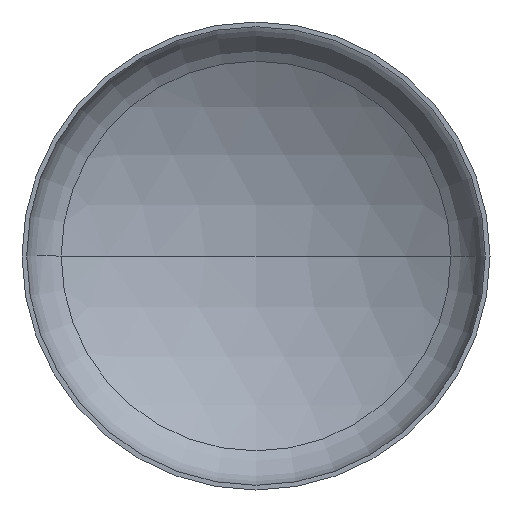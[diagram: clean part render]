
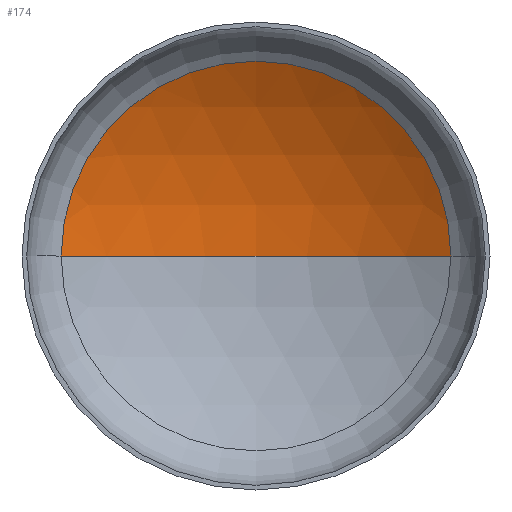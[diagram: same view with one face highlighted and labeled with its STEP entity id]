
A CAD part, front view. The second image highlights one B-rep face of the part: STEP entity #174.
In plain terms, the highlighted spherical face has radius 2240 mm.
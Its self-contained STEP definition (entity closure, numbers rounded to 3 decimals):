
#10 = AXIS2_PLACEMENT_3D ( 'NONE', #194, #286, #331 ) ;
#31 = AXIS2_PLACEMENT_3D ( 'NONE', #310, #169, #336 ) ;
#44 = ORIENTED_EDGE ( 'NONE', *, *, #144, .T. ) ;
#46 = VERTEX_POINT ( 'NONE', #302 ) ;
#52 = DIRECTION ( 'NONE',  ( 1., 0., 0. ) ) ;
#54 = ORIENTED_EDGE ( 'NONE', *, *, #358, .T. ) ;
#65 = AXIS2_PLACEMENT_3D ( 'NONE', #327, #333, #196 ) ;
#67 = AXIS2_PLACEMENT_3D ( 'NONE', #408, #266, #52 ) ;
#78 = CIRCLE ( 'NONE', #67, 1165.79 ) ;
#81 = VERTEX_POINT ( 'NONE', #238 ) ;
#92 = EDGE_LOOP ( 'NONE', ( #106, #54, #44 ) ) ;
#106 = ORIENTED_EDGE ( 'NONE', *, *, #337, .F. ) ;
#131 = VERTEX_POINT ( 'NONE', #262 ) ;
#144 = EDGE_CURVE ( 'NONE', #81, #131, #78, .T. ) ;
#169 = DIRECTION ( 'NONE',  ( 0., 0., 1. ) ) ;
#174 = ADVANCED_FACE ( 'NONE', ( #255 ), #193, .F. ) ;
#193 = SPHERICAL_SURFACE ( 'NONE', #65, 2240. ) ;
#194 = CARTESIAN_POINT ( 'NONE',  ( 0., -1460.554, 0. ) ) ;
#196 = DIRECTION ( 'NONE',  ( -1., 0., 0. ) ) ;
#234 = CIRCLE ( 'NONE', #31, 2240. ) ;
#238 = CARTESIAN_POINT ( 'NONE',  ( 1165.79, 452.176, 0. ) ) ;
#255 = FACE_OUTER_BOUND ( 'NONE', #92, .T. ) ;
#262 = CARTESIAN_POINT ( 'NONE',  ( -1165.79, 452.176, 0. ) ) ;
#266 = DIRECTION ( 'NONE',  ( 0., -1., 0. ) ) ;
#286 = DIRECTION ( 'NONE',  ( 0., 0., -1. ) ) ;
#302 = CARTESIAN_POINT ( 'NONE',  ( 0., 779.446, 0. ) ) ;
#310 = CARTESIAN_POINT ( 'NONE',  ( 0., -1460.554, 0. ) ) ;
#327 = CARTESIAN_POINT ( 'NONE',  ( 0., -1460.554, 0. ) ) ;
#331 = DIRECTION ( 'NONE',  ( -1., 0., 0. ) ) ;
#333 = DIRECTION ( 'NONE',  ( 0., 0., -1. ) ) ;
#336 = DIRECTION ( 'NONE',  ( 1., 0., 0. ) ) ;
#337 = EDGE_CURVE ( 'NONE', #46, #131, #234, .T. ) ;
#340 = CIRCLE ( 'NONE', #10, 2240. ) ;
#358 = EDGE_CURVE ( 'NONE', #46, #81, #340, .T. ) ;
#408 = CARTESIAN_POINT ( 'NONE',  ( 0., 452.176, 0. ) ) ;
